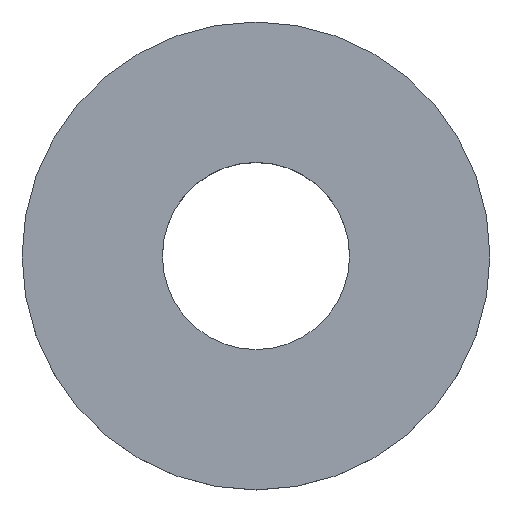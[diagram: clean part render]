
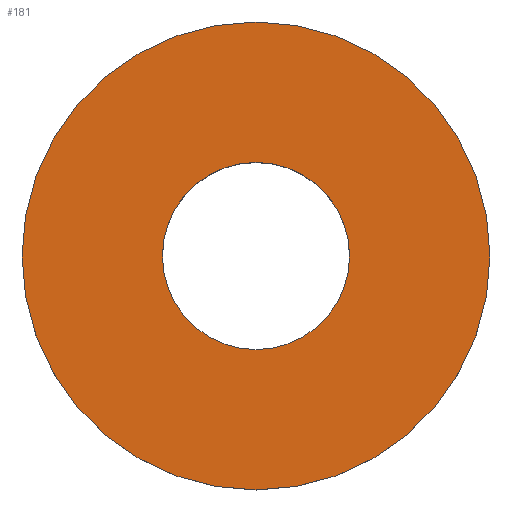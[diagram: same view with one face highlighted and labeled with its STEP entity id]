
A CAD part, top view. The second image highlights one B-rep face of the part: STEP entity #181.
In plain terms, the highlighted planar face has unit normal (0, 0, 1).
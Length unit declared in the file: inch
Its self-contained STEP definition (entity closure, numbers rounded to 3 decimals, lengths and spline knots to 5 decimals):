
#147=CARTESIAN_POINT('',(0.0,-1.875,0.));
#148=VERTEX_POINT('',#147);
#149=CARTESIAN_POINT('',(0.0,0.0,0.));
#150=DIRECTION('',(0.0,0.0,1.0));
#151=DIRECTION('',(0.0,-1.0,0.0));
#152=AXIS2_PLACEMENT_3D('',#149,#150,#151);
#153=CIRCLE('',#152,1.875);
#154=EDGE_CURVE('',#148,#148,#153,.T.);
#162=CARTESIAN_POINT('',(0.0,-1.3125,0.));
#163=DIRECTION('',(0.0,0.0,1.0));
#164=DIRECTION('',(1.0,0.0,0.0));
#165=AXIS2_PLACEMENT_3D('',#162,#163,#164);
#166=PLANE('',#165);
#167=ORIENTED_EDGE('',*,*,#154,.T.);
#168=EDGE_LOOP('',(#167));
#169=FACE_OUTER_BOUND('',#168,.T.);
#170=CARTESIAN_POINT('',(0.0,-0.75,0.));
#171=VERTEX_POINT('',#170);
#172=CARTESIAN_POINT('',(0.0,0.0,0.));
#173=DIRECTION('',(0.0,0.0,1.0));
#174=DIRECTION('',(0.0,-1.0,0.0));
#175=AXIS2_PLACEMENT_3D('',#172,#173,#174);
#176=CIRCLE('',#175,0.75);
#177=EDGE_CURVE('',#171,#171,#176,.T.);
#178=ORIENTED_EDGE('',*,*,#177,.F.);
#179=EDGE_LOOP('',(#178));
#180=FACE_BOUND('',#179,.T.);
#181=ADVANCED_FACE('',(#169,#180),#166,.T.);
